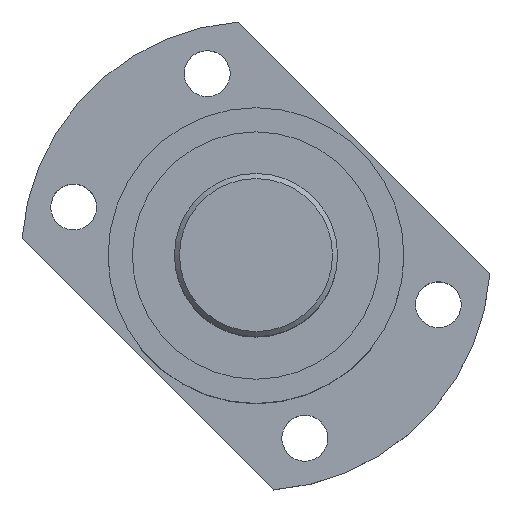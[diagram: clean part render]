
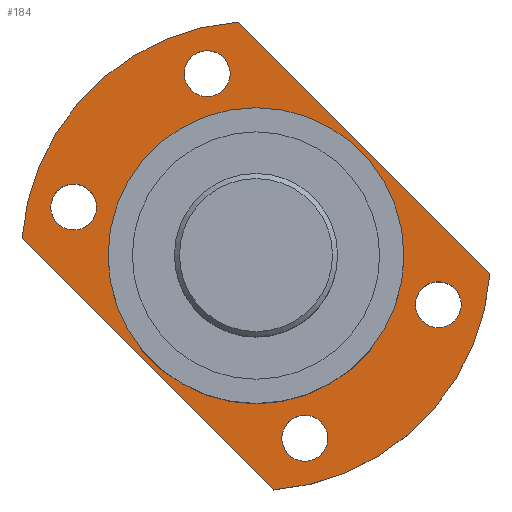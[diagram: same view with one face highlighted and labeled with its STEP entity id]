
A CAD part, top view. The second image highlights one B-rep face of the part: STEP entity #184.
In plain terms, the highlighted planar face has unit normal (0, 0, 1) as drawn and (1, 0, 0) by its records, which use the part's own axes.
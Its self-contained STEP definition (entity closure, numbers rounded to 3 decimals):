
#107=LINE('',#1122,#115);
#108=LINE('',#1123,#116);
#115=VECTOR('',#947,1.);
#116=VECTOR('',#948,1.);
#143=PLANE('',#768);
#184=ADVANCED_FACE('',(#287,#288,#289,#290,#291,#292),#143,.T.);
#287=FACE_BOUND('',#381,.T.);
#288=FACE_BOUND('',#382,.T.);
#289=FACE_BOUND('',#383,.T.);
#290=FACE_BOUND('',#384,.T.);
#291=FACE_BOUND('',#385,.T.);
#292=FACE_BOUND('',#386,.T.);
#381=EDGE_LOOP('',(#485));
#382=EDGE_LOOP('',(#486));
#383=EDGE_LOOP('',(#487));
#384=EDGE_LOOP('',(#488,#489,#490,#491));
#385=EDGE_LOOP('',(#492));
#386=EDGE_LOOP('',(#493));
#485=ORIENTED_EDGE('',*,*,#598,.F.);
#486=ORIENTED_EDGE('',*,*,#623,.T.);
#487=ORIENTED_EDGE('',*,*,#624,.T.);
#488=ORIENTED_EDGE('',*,*,#617,.F.);
#489=ORIENTED_EDGE('',*,*,#625,.T.);
#490=ORIENTED_EDGE('',*,*,#619,.F.);
#491=ORIENTED_EDGE('',*,*,#626,.T.);
#492=ORIENTED_EDGE('',*,*,#627,.T.);
#493=ORIENTED_EDGE('',*,*,#628,.T.);
#544=VERTEX_POINT('',#1050);
#563=VERTEX_POINT('',#1104);
#564=VERTEX_POINT('',#1106);
#565=VERTEX_POINT('',#1110);
#566=VERTEX_POINT('',#1111);
#569=VERTEX_POINT('',#1119);
#570=VERTEX_POINT('',#1121);
#571=VERTEX_POINT('',#1125);
#572=VERTEX_POINT('',#1127);
#598=EDGE_CURVE('',#544,#544,#656,.T.);
#617=EDGE_CURVE('',#563,#564,#674,.T.);
#619=EDGE_CURVE('',#565,#566,#675,.T.);
#623=EDGE_CURVE('',#569,#569,#677,.T.);
#624=EDGE_CURVE('',#570,#570,#678,.T.);
#625=EDGE_CURVE('',#563,#566,#107,.T.);
#626=EDGE_CURVE('',#565,#564,#108,.T.);
#627=EDGE_CURVE('',#571,#571,#679,.T.);
#628=EDGE_CURVE('',#572,#572,#680,.T.);
#656=CIRCLE('',#724,29.);
#674=CIRCLE('',#759,46.);
#675=CIRCLE('',#761,46.);
#677=CIRCLE('',#764,4.5);
#678=CIRCLE('',#765,4.5);
#679=CIRCLE('',#766,4.5);
#680=CIRCLE('',#767,4.5);
#724=AXIS2_PLACEMENT_3D('',#1049,#859,#860);
#759=AXIS2_PLACEMENT_3D('',#1105,#930,#931);
#761=AXIS2_PLACEMENT_3D('',#1109,#935,#936);
#764=AXIS2_PLACEMENT_3D('',#1118,#943,#944);
#765=AXIS2_PLACEMENT_3D('',#1120,#945,#946);
#766=AXIS2_PLACEMENT_3D('',#1124,#949,#950);
#767=AXIS2_PLACEMENT_3D('',#1126,#951,#952);
#768=AXIS2_PLACEMENT_3D('',#1128,#953,#954);
#859=DIRECTION('',(1.,0.,0.));
#860=DIRECTION('',(0.,0.,-1.));
#930=DIRECTION('',(-1.,0.,0.));
#931=DIRECTION('',(0.,0.707,0.707));
#935=DIRECTION('',(-1.,0.,0.));
#936=DIRECTION('',(0.,0.707,0.707));
#943=DIRECTION('',(-1.,0.,0.));
#944=DIRECTION('',(0.,-0.707,-0.707));
#945=DIRECTION('',(-1.,0.,0.));
#946=DIRECTION('',(0.,-0.707,-0.707));
#947=DIRECTION('',(0.,-0.707,-0.707));
#948=DIRECTION('',(0.,0.707,0.707));
#949=DIRECTION('',(-1.,0.,0.));
#950=DIRECTION('',(0.,-0.707,-0.707));
#951=DIRECTION('',(-1.,0.,0.));
#952=DIRECTION('',(0.,-0.707,-0.707));
#953=DIRECTION('',(1.,0.,0.));
#954=DIRECTION('',(0.,-0.707,-0.707));
#1049=CARTESIAN_POINT('',(100.392,42.803,0.));
#1050=CARTESIAN_POINT('',(100.392,42.803,-29.));
#1104=CARTESIAN_POINT('',(100.392,46.247,45.871));
#1105=CARTESIAN_POINT('',(100.392,42.803,0.));
#1106=CARTESIAN_POINT('',(100.392,88.674,3.444));
#1109=CARTESIAN_POINT('',(100.392,42.803,0.));
#1110=CARTESIAN_POINT('',(100.392,39.358,-45.871));
#1111=CARTESIAN_POINT('',(100.392,-3.068,-3.444));
#1118=CARTESIAN_POINT('',(100.392,33.226,-35.739));
#1119=CARTESIAN_POINT('',(100.392,30.044,-38.921));
#1120=CARTESIAN_POINT('',(100.392,78.542,9.576));
#1121=CARTESIAN_POINT('',(100.392,75.36,6.394));
#1122=CARTESIAN_POINT('',(100.392,54.116,53.74));
#1123=CARTESIAN_POINT('',(100.392,96.543,11.314));
#1124=CARTESIAN_POINT('',(100.392,52.379,35.739));
#1125=CARTESIAN_POINT('',(100.392,49.197,32.557));
#1126=CARTESIAN_POINT('',(100.392,7.063,-9.576));
#1127=CARTESIAN_POINT('',(100.392,3.881,-12.758));
#1128=CARTESIAN_POINT('',(100.392,75.33,32.527));
